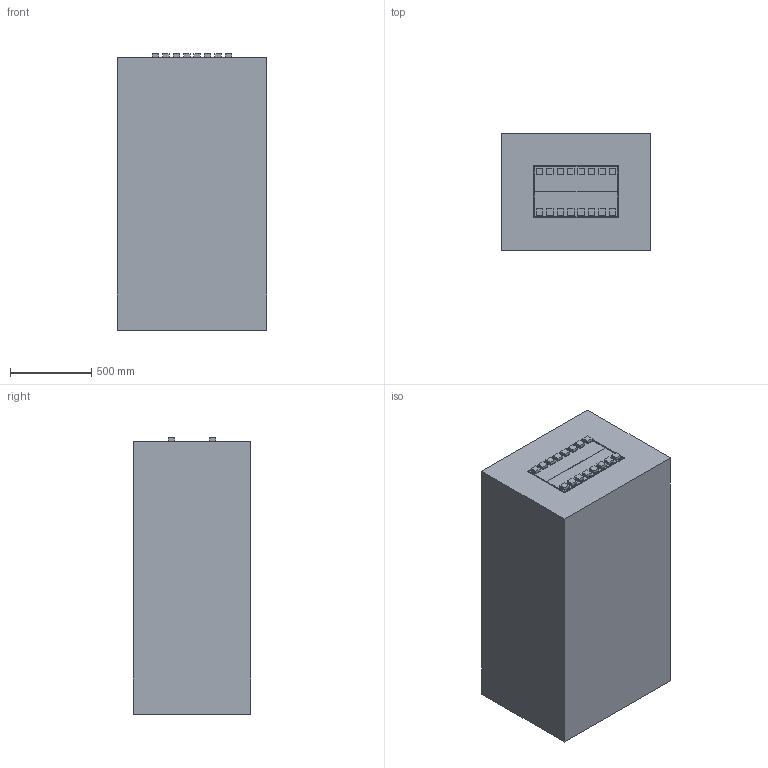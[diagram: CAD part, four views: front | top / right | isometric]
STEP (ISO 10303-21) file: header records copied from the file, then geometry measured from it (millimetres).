
FILE_DESCRIPTION(/* description */ (''),/* implementation_level */ '2;1');
FILE_NAME(/* name */ 'Setup1PrelimTest.step',/* time_stamp */ '2024-09-30T15:27:09-07:00',/* author */ (''),/* organization */ (''),/* preprocessor_version */ 'ST-DEVELOPER v20',/* originating_system */ 'Autodesk Translation Framework v13.20.0.188',/* authorisation */ '');
FILE_SCHEMA (('AUTOMOTIVE_DESIGN { 1 0 10303 214 3 1 1 }'));
Products named in the file (2): CFDGaming; Component1
Assembly tree (1 placements, depth 2):
  CFDGaming
    Component1
Bounding box: 920 x 720 x 1695.4 mm (x, y, z)
Volume: 1108072489.8 mm3; surface area: 8846456 mm2
Topology: 1 solids, 2 shells, 4846 faces, 14600 edges, 9562 vertices
Faces by surface type: plane 4642, cylinder 190, bspline 14
Full cylindrical faces by diameter (mm): 4 x40, 5 x72, 38 x16
Entity records: 164703 total; most frequent: ORIENTED_EDGE 29200, CARTESIAN_POINT 29081, DIRECTION 24748, EDGE_CURVE 14600, LINE 14122, VECTOR 14122, VERTEX_POINT 9562, EDGE_LOOP 6874
